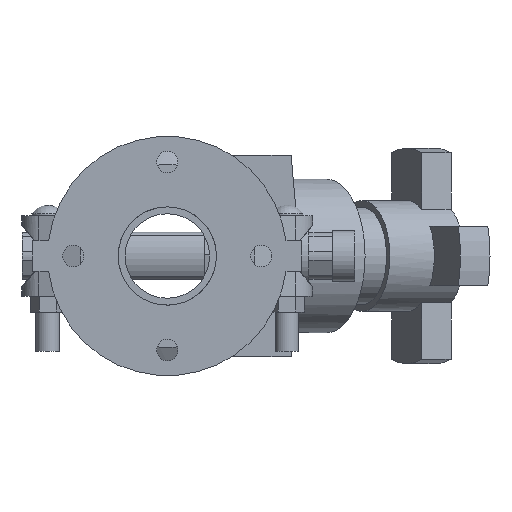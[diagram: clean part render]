
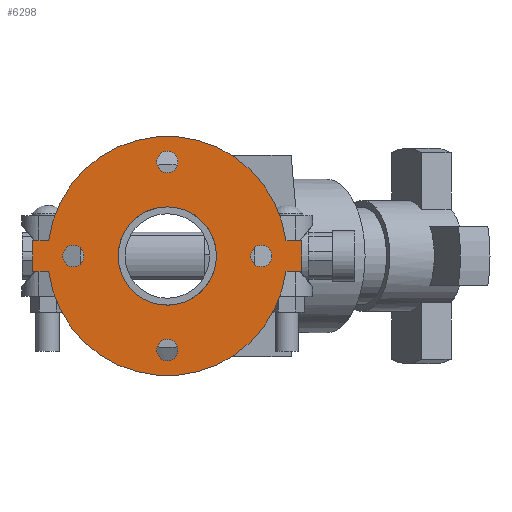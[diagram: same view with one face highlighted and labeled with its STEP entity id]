
A CAD part, front view. The second image highlights one B-rep face of the part: STEP entity #6298.
In plain terms, the highlighted planar face has unit normal (0, -1, 0) as drawn and (0, 0, 1) by its records, which use the part's own axes.
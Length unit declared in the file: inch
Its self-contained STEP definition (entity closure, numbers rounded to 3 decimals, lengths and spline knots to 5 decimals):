
#173=FACE_BOUND('',#795,.T.);
#174=FACE_BOUND('',#796,.T.);
#175=FACE_BOUND('',#797,.T.);
#176=FACE_BOUND('',#798,.T.);
#177=FACE_BOUND('',#799,.T.);
#240=PLANE('',#6855);
#446=FACE_OUTER_BOUND('',#794,.T.);
#794=EDGE_LOOP('',(#4074,#4075,#4076,#4077,#4078,#4079,#4080,#4081));
#795=EDGE_LOOP('',(#4082));
#796=EDGE_LOOP('',(#4083));
#797=EDGE_LOOP('',(#4084));
#798=EDGE_LOOP('',(#4085));
#799=EDGE_LOOP('',(#4086,#4087));
#1199=LINE('',#9623,#1672);
#1200=LINE('',#9626,#1673);
#1203=LINE('',#9631,#1676);
#1204=LINE('',#9634,#1677);
#1206=LINE('',#9637,#1679);
#1207=LINE('',#9639,#1680);
#1672=VECTOR('',#7646,0.3937);
#1673=VECTOR('',#7649,0.3937);
#1676=VECTOR('',#7654,0.3937);
#1677=VECTOR('',#7657,0.3937);
#1679=VECTOR('',#7661,0.3937);
#1680=VECTOR('',#7664,0.3937);
#2129=CIRCLE('',#6826,0.3125);
#2131=CIRCLE('',#6829,0.3125);
#2133=CIRCLE('',#6832,0.3125);
#2135=CIRCLE('',#6835,0.3125);
#2141=CIRCLE('',#6843,3.5);
#2142=CIRCLE('',#6845,1.4375);
#2143=CIRCLE('',#6846,1.4375);
#2144=CIRCLE('',#6848,3.5);
#2492=VERTEX_POINT('',#9558);
#2494=VERTEX_POINT('',#9564);
#2496=VERTEX_POINT('',#9570);
#2498=VERTEX_POINT('',#9576);
#2510=VERTEX_POINT('',#9603);
#2511=VERTEX_POINT('',#9605);
#2512=VERTEX_POINT('',#9609);
#2513=VERTEX_POINT('',#9611);
#2514=VERTEX_POINT('',#9615);
#2515=VERTEX_POINT('',#9617);
#2516=VERTEX_POINT('',#9621);
#2517=VERTEX_POINT('',#9625);
#2518=VERTEX_POINT('',#9629);
#2519=VERTEX_POINT('',#9633);
#3102=EDGE_CURVE('',#2492,#2492,#2129,.T.);
#3105=EDGE_CURVE('',#2494,#2494,#2131,.T.);
#3108=EDGE_CURVE('',#2496,#2496,#2133,.T.);
#3111=EDGE_CURVE('',#2498,#2498,#2135,.T.);
#3126=EDGE_CURVE('',#2510,#2511,#2141,.T.);
#3128=EDGE_CURVE('',#2513,#2512,#2142,.T.);
#3129=EDGE_CURVE('',#2512,#2513,#2143,.T.);
#3131=EDGE_CURVE('',#2515,#2514,#2144,.T.);
#3134=EDGE_CURVE('',#2511,#2516,#1199,.T.);
#3135=EDGE_CURVE('',#2517,#2515,#1200,.T.);
#3138=EDGE_CURVE('',#2514,#2518,#1203,.T.);
#3139=EDGE_CURVE('',#2519,#2510,#1204,.T.);
#3141=EDGE_CURVE('',#2518,#2519,#1206,.T.);
#3142=EDGE_CURVE('',#2516,#2517,#1207,.T.);
#4074=ORIENTED_EDGE('',*,*,#3138,.T.);
#4075=ORIENTED_EDGE('',*,*,#3141,.T.);
#4076=ORIENTED_EDGE('',*,*,#3139,.T.);
#4077=ORIENTED_EDGE('',*,*,#3126,.T.);
#4078=ORIENTED_EDGE('',*,*,#3134,.T.);
#4079=ORIENTED_EDGE('',*,*,#3142,.T.);
#4080=ORIENTED_EDGE('',*,*,#3135,.T.);
#4081=ORIENTED_EDGE('',*,*,#3131,.T.);
#4082=ORIENTED_EDGE('',*,*,#3102,.T.);
#4083=ORIENTED_EDGE('',*,*,#3105,.T.);
#4084=ORIENTED_EDGE('',*,*,#3108,.T.);
#4085=ORIENTED_EDGE('',*,*,#3111,.T.);
#4086=ORIENTED_EDGE('',*,*,#3128,.T.);
#4087=ORIENTED_EDGE('',*,*,#3129,.T.);
#6298=ADVANCED_FACE('',(#446,#173,#174,#175,#176,#177),#240,.T.);
#6826=AXIS2_PLACEMENT_3D('',#9559,#7582,#7583);
#6829=AXIS2_PLACEMENT_3D('',#9565,#7589,#7590);
#6832=AXIS2_PLACEMENT_3D('',#9571,#7596,#7597);
#6835=AXIS2_PLACEMENT_3D('',#9577,#7603,#7604);
#6843=AXIS2_PLACEMENT_3D('',#9607,#7628,#7629);
#6845=AXIS2_PLACEMENT_3D('',#9612,#7633,#7634);
#6846=AXIS2_PLACEMENT_3D('',#9613,#7635,#7636);
#6848=AXIS2_PLACEMENT_3D('',#9618,#7640,#7641);
#6855=AXIS2_PLACEMENT_3D('',#9640,#7665,#7666);
#7582=DIRECTION('center_axis',(0.,0.,-1.));
#7583=DIRECTION('ref_axis',(0.,1.,0.));
#7589=DIRECTION('center_axis',(0.,0.,-1.));
#7590=DIRECTION('ref_axis',(1.,0.,0.));
#7596=DIRECTION('center_axis',(0.,0.,-1.));
#7597=DIRECTION('ref_axis',(0.,-1.,0.));
#7603=DIRECTION('center_axis',(0.,0.,-1.));
#7604=DIRECTION('ref_axis',(-1.,0.,0.));
#7628=DIRECTION('center_axis',(0.,0.,1.));
#7629=DIRECTION('ref_axis',(-1.,0.,0.));
#7633=DIRECTION('center_axis',(0.,0.,-1.));
#7634=DIRECTION('ref_axis',(-1.,0.,0.));
#7635=DIRECTION('center_axis',(0.,0.,-1.));
#7636=DIRECTION('ref_axis',(-1.,0.,0.));
#7640=DIRECTION('center_axis',(0.,0.,1.));
#7641=DIRECTION('ref_axis',(-1.,0.,0.));
#7646=DIRECTION('',(0.,1.,0.));
#7649=DIRECTION('',(0.,-1.,0.));
#7654=DIRECTION('',(0.,-1.,0.));
#7657=DIRECTION('',(0.,1.,0.));
#7661=DIRECTION('',(1.,0.,0.));
#7664=DIRECTION('',(-1.,0.,0.));
#7665=DIRECTION('center_axis',(0.,0.,1.));
#7666=DIRECTION('ref_axis',(1.,0.,0.));
#9558=CARTESIAN_POINT('',(0.,2.4375,0.44));
#9559=CARTESIAN_POINT('Origin',(0.,2.75,0.44));
#9564=CARTESIAN_POINT('',(2.4375,0.,0.44));
#9565=CARTESIAN_POINT('Origin',(2.75,0.,0.44));
#9570=CARTESIAN_POINT('',(0.,-2.4375,0.44));
#9571=CARTESIAN_POINT('Origin',(0.,-2.75,0.44));
#9576=CARTESIAN_POINT('',(-2.4375,0.,0.44));
#9577=CARTESIAN_POINT('Origin',(-2.75,0.,0.44));
#9603=CARTESIAN_POINT('',(0.44,-3.47223,0.44));
#9605=CARTESIAN_POINT('',(0.44,3.47223,0.44));
#9607=CARTESIAN_POINT('Origin',(0.,0.,0.44));
#9609=CARTESIAN_POINT('',(1.4375,0.,0.44));
#9611=CARTESIAN_POINT('',(0.44,1.36851,0.44));
#9612=CARTESIAN_POINT('Origin',(0.,0.,0.44));
#9613=CARTESIAN_POINT('Origin',(0.,0.,0.44));
#9615=CARTESIAN_POINT('',(-0.44,-3.47223,0.44));
#9617=CARTESIAN_POINT('',(-0.44,3.47223,0.44));
#9618=CARTESIAN_POINT('Origin',(0.,0.,0.44));
#9621=CARTESIAN_POINT('',(0.44,3.94,0.44));
#9623=CARTESIAN_POINT('',(0.44,3.94,0.44));
#9625=CARTESIAN_POINT('',(-0.44,3.94,0.44));
#9626=CARTESIAN_POINT('',(-0.44,-3.94,0.44));
#9629=CARTESIAN_POINT('',(-0.44,-3.94,0.44));
#9631=CARTESIAN_POINT('',(-0.44,-3.94,0.44));
#9633=CARTESIAN_POINT('',(0.44,-3.94,0.44));
#9634=CARTESIAN_POINT('',(0.44,3.94,0.44));
#9637=CARTESIAN_POINT('',(0.44,-3.94,0.44));
#9639=CARTESIAN_POINT('',(-0.44,3.94,0.44));
#9640=CARTESIAN_POINT('Origin',(0.,0.,0.44));
